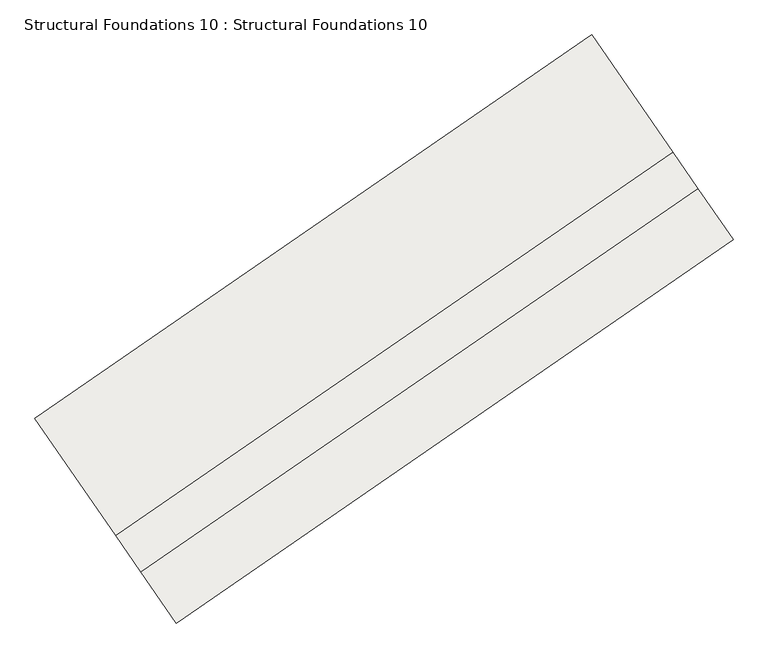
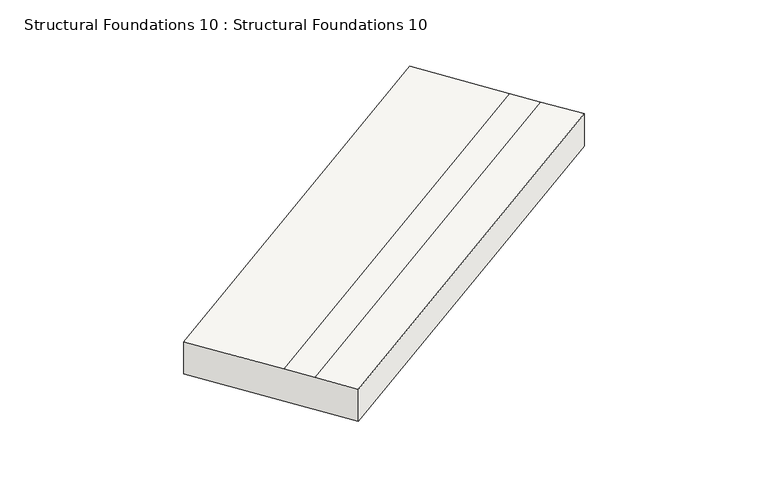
"""IFC4 building model written with IfcOpenShell, lengths in millimetres: slab geometry, Structural Foundations 10 : Structural Foundations 10."""

from ifc_helpers import new_model, si_unit, origin, place, context, project, spatial, faceted_brep, source, transform, mapped, element, save


def structural_foundations_10_structural_foundations_10_180cd7d3(model_context):
    return source(origin(), model_context, "Body", "Brep", [
        faceted_brep([(-352305.7594382, -444153.5388693, 634418.0000004), (-351268.0244172, -445660.0724209, 634418.0), (-350944.3151347, -446130.017913, 634417.9999998), (-350490.500367, -446788.8442607, 634417.9999996), (-350490.500367, -446788.8442607, 633767.9999996), (-352305.7594382, -444153.5388693, 633768.0000004), (-359470.4959705, -449088.7744687, 634344.0000005), (-359470.4959705, -449088.7744687, 633694.0000005), (-357655.2368994, -451724.0798601, 633693.9999997), (-357655.2368994, -451724.0798601, 634343.9999997), (-358109.051667, -451065.2535124, 634343.9999999), (-358432.7609496, -450595.3080203, 634344.0000001)], [[[0, 1, 2, 3, 4, 5]], [[6, 7, 8, 9, 10, 11]], [[6, 11, 1, 0]], [[11, 10, 2, 1]], [[10, 9, 3, 2]], [[9, 8, 4, 3]], [[8, 7, 5, 4]], [[7, 6, 0, 5]]]),
    ])


if __name__ == "__main__":
    model = new_model("IFC4")
    model_context = context("Model", 3, world=origin())
    ifc_project = project(units=[si_unit("LENGTHUNIT", "METRE", prefix="MILLI")], contexts=[model_context])
    site = spatial("IfcSite", under=ifc_project)
    building = spatial("IfcBuilding", under=site)
    placement = place(None, origin())
    structural_foundations_10_structural_foundations_10_shape = structural_foundations_10_structural_foundations_10_180cd7d3(model_context)
    element("IfcSlab", 1, ObjectType="Structural Foundations 10 : Structural Foundations 10", at=placement, inside=building, context=model_context, shape_type="MappedRepresentation", body=[
        mapped(structural_foundations_10_structural_foundations_10_shape, transform((0.0, 0.0, 0.0), x_axis=(1.0, 0.0, 0.0), y_axis=(0.0, 1.0, 0.0), z_axis=(0.0, 0.0, 1.0))),
    ])
    save(model, "model.ifc")
